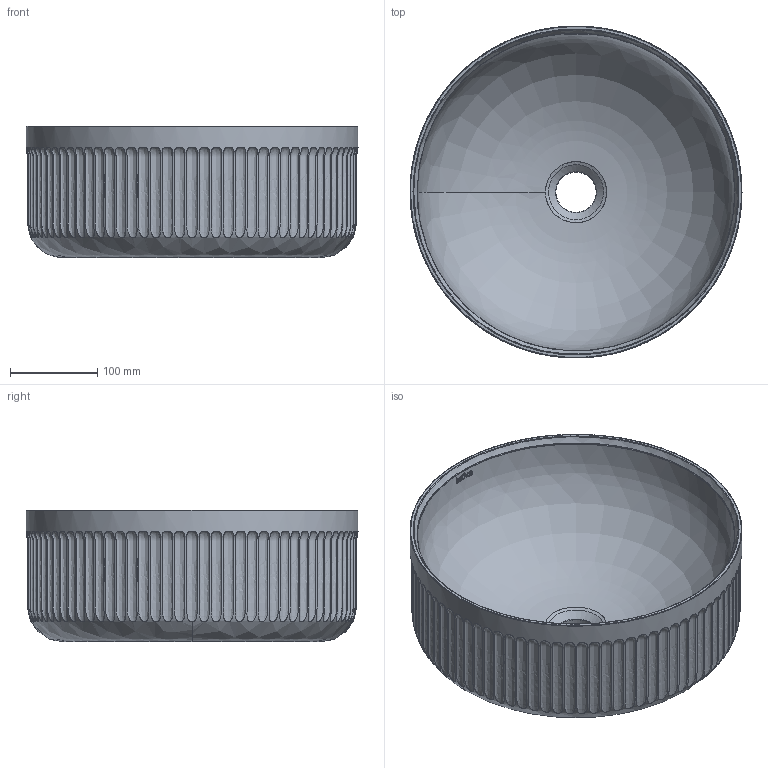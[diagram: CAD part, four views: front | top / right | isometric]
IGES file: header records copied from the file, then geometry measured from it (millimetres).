
Global section: file name: C:\Users\User\Desktop\0600_Striae.igs; native system: Rhinoceros ( May  7 2021 ); preprocessor: Trout Lake IGES 012 May  7 2021; date: 231113.152756; units: millimetre
Bounding box: 380 x 380 x 150 mm (x, y, z)
Surface area: 510460.6 mm2 (no closed solid volume)
Topology: 0 solids, 0 shells, 362 faces, 8024 edges, 8001 vertices
Faces by surface type: bspline 362
